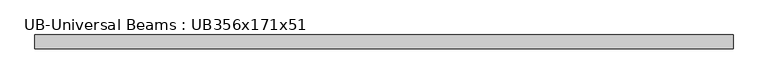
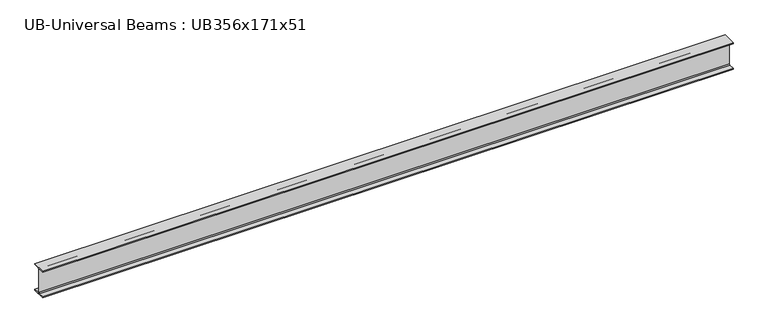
"""IFC4 building model written with IfcOpenShell, lengths in millimetres: beam geometry, UB-Universal Beams : UB356x171x51."""

from ifc_helpers import new_model, si_unit, point, frame, frame_2d, origin, place, context, project, spatial, polyline, circle_curve, trimmed, segment, composite_curve, outline, extrude, source, transform, mapped, element, save


def ub_universal_beams_ub356x171x51_e47b7055(model_context):
    return source(origin(), model_context, "Body", "SweptSolid", [
        extrude(outline(composite_curve([segment(polyline([(85.75, -166.0), (85.75, -177.5), (-85.75, -177.5), (-85.75, -166.0), (-13.9, -166.0)]), True, "CONTINUOUS"), segment(trimmed(circle_curve(frame_2d((-13.9, -155.8)), 10.2), [point((-13.9, -166.0))], [point((-3.7, -155.8))], True, "CARTESIAN"), True, "CONTINUOUS"), segment(polyline([(-3.7, -155.8), (-3.7, 155.8)]), True, "CONTINUOUS"), segment(trimmed(circle_curve(frame_2d((-13.9, 155.8)), 10.2), [point((-3.7, 155.8))], [point((-13.9, 166.0))], True, "CARTESIAN"), True, "CONTINUOUS"), segment(polyline([(-13.9, 166.0), (-85.75, 166.0), (-85.75, 177.5), (85.75, 177.5), (85.75, 166.0), (13.9, 166.0)]), True, "CONTINUOUS"), segment(trimmed(circle_curve(frame_2d((13.9, 155.8)), 10.2), [point((13.9, 166.0))], [point((3.7, 155.8))], True, "CARTESIAN"), True, "CONTINUOUS"), segment(polyline([(3.7, 155.8), (3.7, -155.8)]), True, "CONTINUOUS"), segment(trimmed(circle_curve(frame_2d((13.9, -155.8)), 10.2), [point((3.7, -155.8))], [point((13.9, -166.0))], True, "CARTESIAN"), True, "CONTINUOUS"), segment(polyline([(13.9, -166.0), (85.75, -166.0)]), True, "CONTINUOUS")], self_intersect=False)), frame((-4346.9, 0.0, 0.0), z_axis=(1.0, 0.0, 0.0), x_axis=(0.0, 1.0, 0.0)), (0.0, 0.0, 1.0), 8752.2),
    ])


if __name__ == "__main__":
    model = new_model("IFC4")
    model_context = context("Model", 3, world=origin())
    ifc_project = project(units=[si_unit("LENGTHUNIT", "METRE", prefix="MILLI")], contexts=[model_context])
    site = spatial("IfcSite", under=ifc_project)
    building = spatial("IfcBuilding", under=site)
    placement = place(None, origin())
    ub_universal_beams_ub356x171x51_shape = ub_universal_beams_ub356x171x51_e47b7055(model_context)
    element("IfcBeam", 1, ObjectType="UB-Universal Beams : UB356x171x51", at=placement, inside=building, context=model_context, shape_type="MappedRepresentation", body=[
        mapped(ub_universal_beams_ub356x171x51_shape, transform((0.0, 0.0, 0.0), x_axis=(1.0, 0.0, 0.0), y_axis=(0.0, 1.0, 0.0), z_axis=(0.0, 0.0, 1.0))),
    ])
    save(model, "model.ifc")
